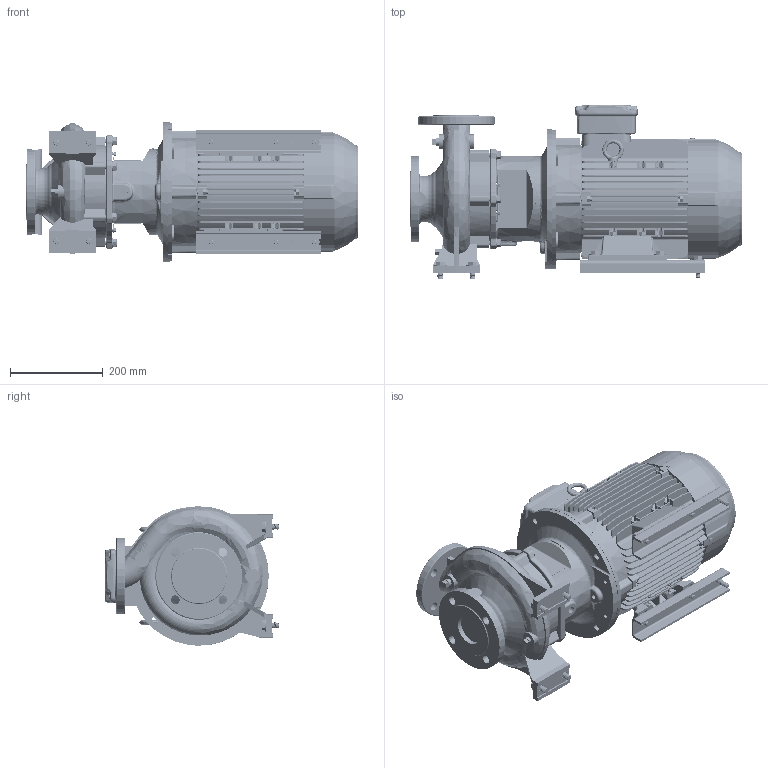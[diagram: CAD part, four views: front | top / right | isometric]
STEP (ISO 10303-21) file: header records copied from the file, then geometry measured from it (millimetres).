
FILE_DESCRIPTION (( 'STEP AP214' ), '1' );
FILE_NAME ('GSD2 50-160_5.5 & 7.5_(132S)_W21.STEP', '2026-07-07T04:05:26', ( '' ), ( '' ), 'SwSTEP 2.0', 'SolidWorks 2024', '' );
FILE_SCHEMA (( 'AUTOMOTIVE_DESIGN' ));
Length unit declared in the file: millimetre
Products named in the file (12): 140_178 x 28 - 271472025; Parametric Flat Washer_M12; 132S ALIE3_W21T_B35; GSD2  50-160_5.5 & 7.5_(132S)_W21; Parametric Flat Washer_M10; Parametric bolt_SFT-A257B; Parametric bolt and washer_SFT-A275B; Parametric bolt_SFT-A253B; 50-160-132S; Parametric bolt and washer_SFT-A299B; Parametric bolt and washer_SFT-A253B; Parametric bolt_SFT-A299B
Assembly tree (20 placements, depth 3):
  GSD2  50-160_5.5 & 7.5_(132S)_W21
    50-160-132S
    140_178 x 28 - 271472025  x2
    Parametric bolt and washer_SFT-A299B  x4
      Parametric bolt_SFT-A299B
      Parametric Flat Washer_M12
    Parametric bolt and washer_SFT-A275B  x2
      Parametric bolt_SFT-A257B
      Parametric Flat Washer_M10
    Parametric bolt and washer_SFT-A253B  x4
      Parametric bolt_SFT-A253B
      Parametric Flat Washer_M10
    132S ALIE3_W21T_B35
Bounding box: 714.8 x 375.5 x 300 mm (x, y, z)
Volume: 27632649.4 mm3; surface area: 1897025.8 mm2
Topology: 35 solids, 35 shells, 4828 faces, 12604 edges, 8194 vertices
Faces by surface type: plane 2881, cylinder 1141, torus 303, bspline 256, cone 215, sphere 32
Entity records: 167577 total; most frequent: CARTESIAN_POINT 61220, ORIENTED_EDGE 22876, DIRECTION 20677, EDGE_CURVE 11438, LINE 7657, VECTOR 7657, VERTEX_POINT 7446, AXIS2_PLACEMENT_3D 6510
